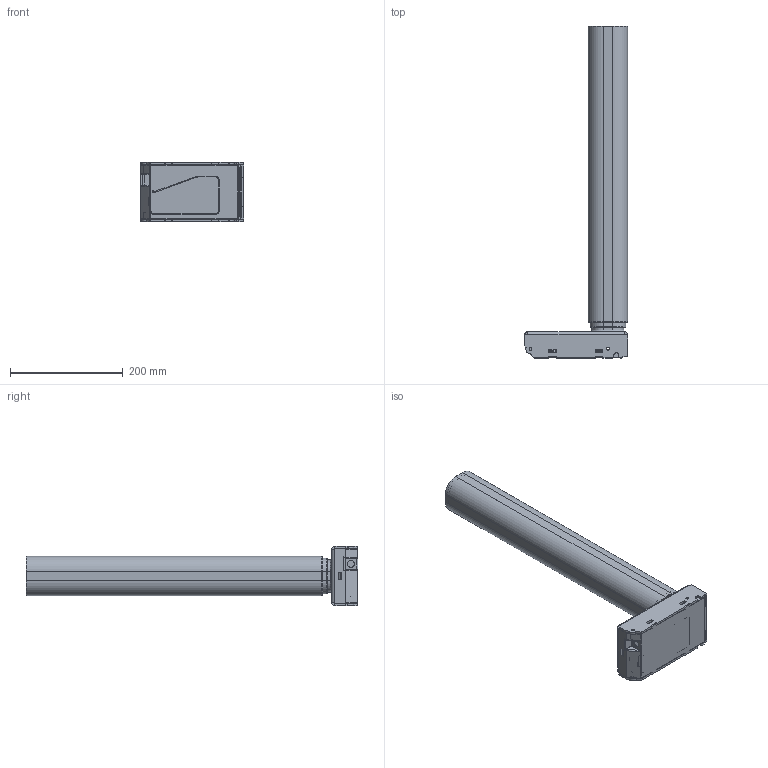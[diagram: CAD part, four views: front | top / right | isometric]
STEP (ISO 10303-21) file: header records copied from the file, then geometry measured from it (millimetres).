
FILE_DESCRIPTION (( 'STEP AP203' ), '1' );
FILE_NAME ('3D_TL45K.STEP', '2025-09-19T07:22:18', ( '' ), ( '' ), 'SwSTEP 2.0', 'SolidWorks 2015', '' );
FILE_SCHEMA (( 'CONFIG_CONTROL_DESIGN' ));
Length unit declared in the file: inch
Products named in the file (1): 3D_TL45K
Bounding box: 183.5 x 590 x 105 mm (x, y, z)
Volume: 708302.9 mm3; surface area: 812121.1 mm2
Topology: 11 solids, 11 shells, 1534 faces, 4108 edges, 2596 vertices
Faces by surface type: plane 847, cylinder 477, bspline 79, torus 74, cone 42, sphere 15
Entity records: 53774 total; most frequent: CARTESIAN_POINT 15533, ORIENTED_EDGE 8194, DIRECTION 7646, EDGE_CURVE 4097, LINE 2602, VECTOR 2602, VERTEX_POINT 2596, AXIS2_PLACEMENT_3D 2522
